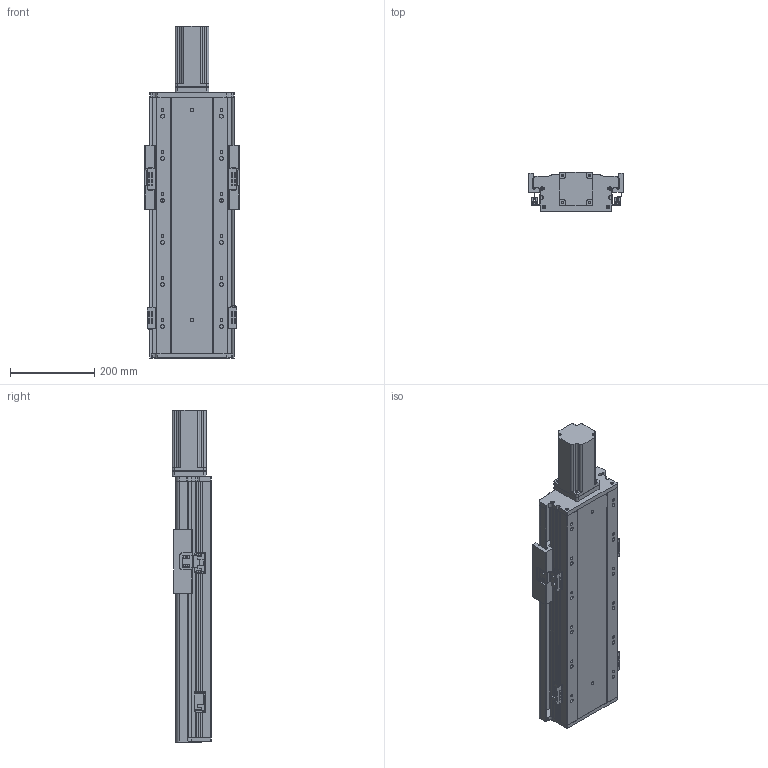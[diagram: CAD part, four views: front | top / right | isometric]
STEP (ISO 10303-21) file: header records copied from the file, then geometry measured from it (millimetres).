
FILE_DESCRIPTION (( 'STEP AP203' ), '1' );
FILE_NAME ('RY170FB-L2510-300-MK.SLDASM_300.step', '2021-02-22T08:56:17', ( '盈信电脑' ), ( '东莞市道滘镇水果街19号' ), 'SwSTEP 2.0', 'SolidWorks 2012', '' );
FILE_SCHEMA (( 'CONFIG_CONTROL_DESIGN' ));
Length unit declared in the file: millimetre
Products named in the file (16): RY170FB-L2510-300-MK.SLDASM_300; RY140FB-674嫖萇覜茼え; RY140-674嫖萇耀輸; RY140FB-覜茼え; 侂狟750W萇儂ㄗ80遺ㄘ; 覜茼ん674; 750W萇儂梓袧蛌諉啣; RY140直线电机感应器674光电安装座; RY170FB-300奻裔; 滅袉蝶18-10; RY170FB-铝滑块(25丝杆）; 滅袉蝶18-28; RY170FB-300倰第菁釱-MK; RY170FB-ヶ裔啣; RY170FB-綴裔啣
Assembly tree (20 placements, depth 3):
  RY170FB-L2510-300-MK.SLDASM_300
    RY170FB-300倰第菁釱-MK
    RY170FB-綴裔啣
    RY170FB-ヶ裔啣
    滅袉蝶18-28
    滅袉蝶18-10
    RY170FB-铝滑块(25丝杆）
    RY170FB-300奻裔
    750W萇儂梓袧蛌諉啣
    侂狟750W萇儂ㄗ80遺ㄘ
    RY140-674嫖萇耀輸  x2
      覜茼ん674
      RY140直线电机感应器674光电安装座
    RY140FB-674嫖萇覜茼え
    RY140-674嫖萇耀輸  x2
      覜茼ん674
      RY140直线电机感应器674光电安装座
    RY140FB-覜茼え
Bounding box: 225 x 93.2 x 789.5 mm (x, y, z)
Volume: 4660397.5 mm3; surface area: 1235542.7 mm2
Topology: 21 solids, 21 shells, 1551 faces, 4369 edges, 2822 vertices
Faces by surface type: plane 761, cylinder 702, cone 88
Entity records: 38365 total; most frequent: CARTESIAN_POINT 7860, DIRECTION 6053, ORIENTED_EDGE 6014, EDGE_CURVE 3007, AXIS2_PLACEMENT_3D 2187, VERTEX_POINT 1976, LINE 1679, VECTOR 1679
